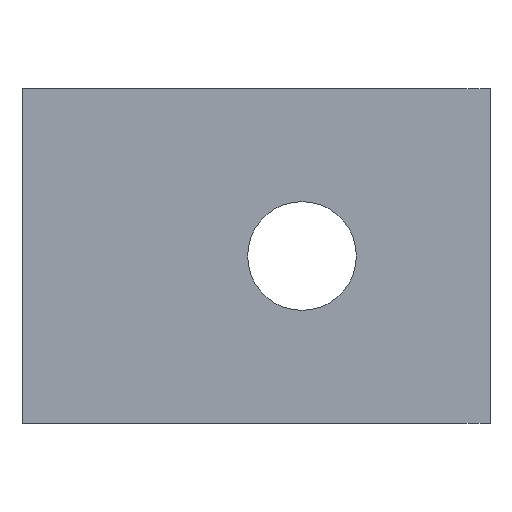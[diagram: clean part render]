
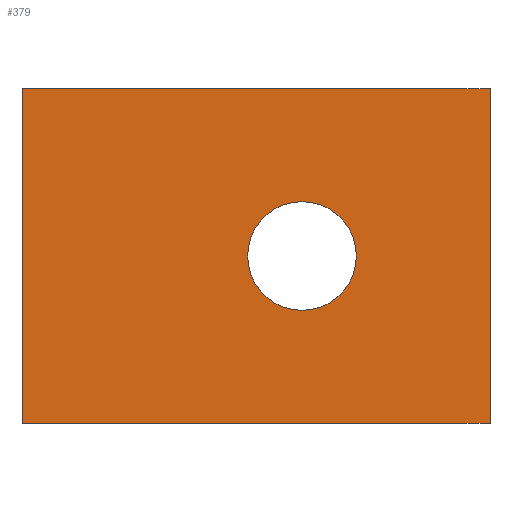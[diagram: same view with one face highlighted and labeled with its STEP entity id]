
A CAD part, front view. The second image highlights one B-rep face of the part: STEP entity #379.
In plain terms, the highlighted planar face has unit normal (0, -1, 0).
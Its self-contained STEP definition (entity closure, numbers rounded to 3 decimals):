
#20 = ORIENTED_EDGE ( 'NONE', *, *, #52, .T. ) ;
#30 = DIRECTION ( 'NONE',  ( 1., 0., 0. ) ) ;
#35 = ORIENTED_EDGE ( 'NONE', *, *, #502, .T. ) ;
#50 = DIRECTION ( 'NONE',  ( 0., 0., -1. ) ) ;
#52 = EDGE_CURVE ( 'NONE', #231, #455, #183, .T. ) ;
#57 = EDGE_LOOP ( 'NONE', ( #20, #304, #619, #35 ) ) ;
#100 = VERTEX_POINT ( 'NONE', #501 ) ;
#110 = CARTESIAN_POINT ( 'NONE',  ( 0., -140., -20. ) ) ;
#111 = EDGE_CURVE ( 'NONE', #516, #360, #706, .T. ) ;
#121 = VECTOR ( 'NONE', #578, 1000. ) ;
#132 = DIRECTION ( 'NONE',  ( 0., -1., 0. ) ) ;
#159 = CARTESIAN_POINT ( 'NONE',  ( 56., -140., -20. ) ) ;
#170 = EDGE_CURVE ( 'NONE', #360, #516, #601, .T. ) ;
#175 = EDGE_CURVE ( 'NONE', #247, #455, #368, .T. ) ;
#183 = LINE ( 'NONE', #110, #288 ) ;
#203 = CARTESIAN_POINT ( 'NONE',  ( 33.5, -140., 0. ) ) ;
#212 = DIRECTION ( 'NONE',  ( 0., 0., 1. ) ) ;
#225 = DIRECTION ( 'NONE',  ( 0., 0., -1. ) ) ;
#231 = VERTEX_POINT ( 'NONE', #726 ) ;
#247 = VERTEX_POINT ( 'NONE', #710 ) ;
#254 = VECTOR ( 'NONE', #487, 1000. ) ;
#257 = FACE_OUTER_BOUND ( 'NONE', #57, .T. ) ;
#283 = DIRECTION ( 'NONE',  ( 0., 1., 0. ) ) ;
#288 = VECTOR ( 'NONE', #30, 1000. ) ;
#295 = AXIS2_PLACEMENT_3D ( 'NONE', #203, #132, #50 ) ;
#299 = CARTESIAN_POINT ( 'NONE',  ( 56., -140., 20. ) ) ;
#304 = ORIENTED_EDGE ( 'NONE', *, *, #175, .F. ) ;
#351 = CARTESIAN_POINT ( 'NONE',  ( 0., -140., 20. ) ) ;
#360 = VERTEX_POINT ( 'NONE', #433 ) ;
#368 = LINE ( 'NONE', #299, #543 ) ;
#379 = ADVANCED_FACE ( 'NONE', ( #620, #257 ), #511, .F. ) ;
#433 = CARTESIAN_POINT ( 'NONE',  ( 33.5, -140., 6.5 ) ) ;
#448 = ORIENTED_EDGE ( 'NONE', *, *, #111, .F. ) ;
#455 = VERTEX_POINT ( 'NONE', #159 ) ;
#487 = DIRECTION ( 'NONE',  ( 1., 0., 0. ) ) ;
#501 = CARTESIAN_POINT ( 'NONE',  ( 0., -140., 20. ) ) ;
#502 = EDGE_CURVE ( 'NONE', #100, #231, #735, .T. ) ;
#511 = PLANE ( 'NONE',  #691 ) ;
#516 = VERTEX_POINT ( 'NONE', #718 ) ;
#523 = DIRECTION ( 'NONE',  ( 0., 0., -1. ) ) ;
#543 = VECTOR ( 'NONE', #225, 1000. ) ;
#567 = CARTESIAN_POINT ( 'NONE',  ( 0., -140., 20. ) ) ;
#578 = DIRECTION ( 'NONE',  ( 0., 0., -1. ) ) ;
#601 = CIRCLE ( 'NONE', #612, 6.5 ) ;
#607 = DIRECTION ( 'NONE',  ( 0., -1., 0. ) ) ;
#609 = ORIENTED_EDGE ( 'NONE', *, *, #170, .F. ) ;
#612 = AXIS2_PLACEMENT_3D ( 'NONE', #686, #607, #523 ) ;
#619 = ORIENTED_EDGE ( 'NONE', *, *, #713, .F. ) ;
#620 = FACE_BOUND ( 'NONE', #656, .T. ) ;
#648 = LINE ( 'NONE', #567, #254 ) ;
#656 = EDGE_LOOP ( 'NONE', ( #448, #609 ) ) ;
#658 = CARTESIAN_POINT ( 'NONE',  ( 0., -140., 20. ) ) ;
#686 = CARTESIAN_POINT ( 'NONE',  ( 33.5, -140., 0. ) ) ;
#691 = AXIS2_PLACEMENT_3D ( 'NONE', #351, #283, #212 ) ;
#706 = CIRCLE ( 'NONE', #295, 6.5 ) ;
#710 = CARTESIAN_POINT ( 'NONE',  ( 56., -140., 20. ) ) ;
#713 = EDGE_CURVE ( 'NONE', #100, #247, #648, .T. ) ;
#718 = CARTESIAN_POINT ( 'NONE',  ( 33.5, -140., -6.5 ) ) ;
#726 = CARTESIAN_POINT ( 'NONE',  ( 0., -140., -20. ) ) ;
#735 = LINE ( 'NONE', #658, #121 ) ;
